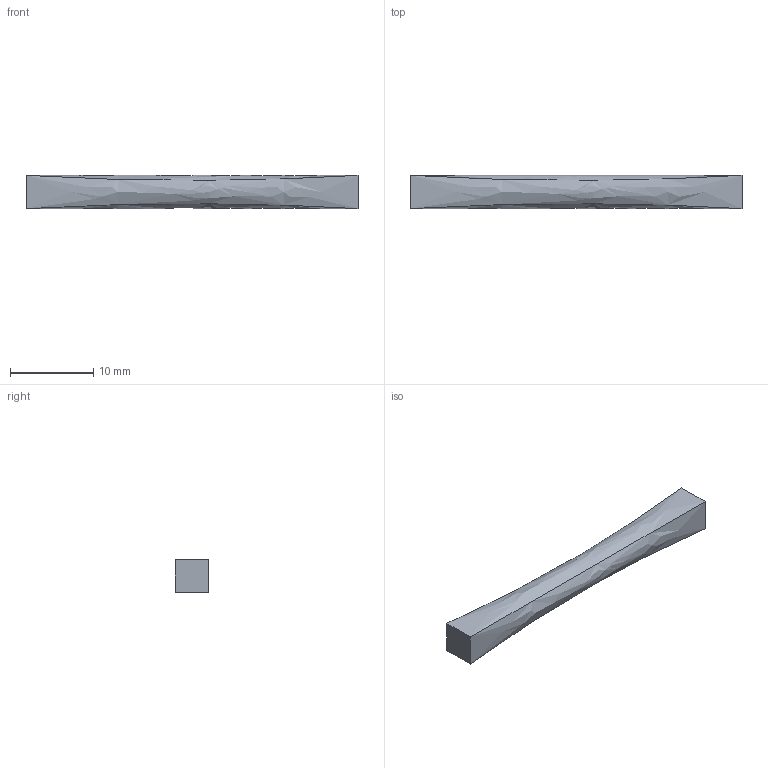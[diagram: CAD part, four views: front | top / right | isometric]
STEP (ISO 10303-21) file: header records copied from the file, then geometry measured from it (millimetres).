
FILE_DESCRIPTION(('Open CASCADE Model'),'2;1');
FILE_NAME('Open CASCADE Shape Model','2026-10-26T07:40:07',('Author'),( 'Open CASCADE'),'Open CASCADE STEP processor 7.9','Open CASCADE 7.9' ,'Unknown');
FILE_SCHEMA(('AUTOMOTIVE_DESIGN { 1 0 10303 214 1 1 1 1 }'));
Length unit declared in the file: millimetre
Products named in the file (1): Open CASCADE STEP translator 7.9 1
Bounding box: 40 x 4 x 4 mm (x, y, z)
Volume: 545.7 mm3; surface area: 570 mm2
Topology: 1 solids, 1 shells, 7 faces, 15 edges, 10 vertices
Faces by surface type: bspline 5, plane 2
Entity records: 594 total; most frequent: CARTESIAN_POINT 328, ORIENTED_EDGE 30, PCURVE 30, DEFINITIONAL_REPRESENTATION 30, DIRECTION 26, B_SPLINE_CURVE_WITH_KNOTS 25, LINE 20, VECTOR 20
